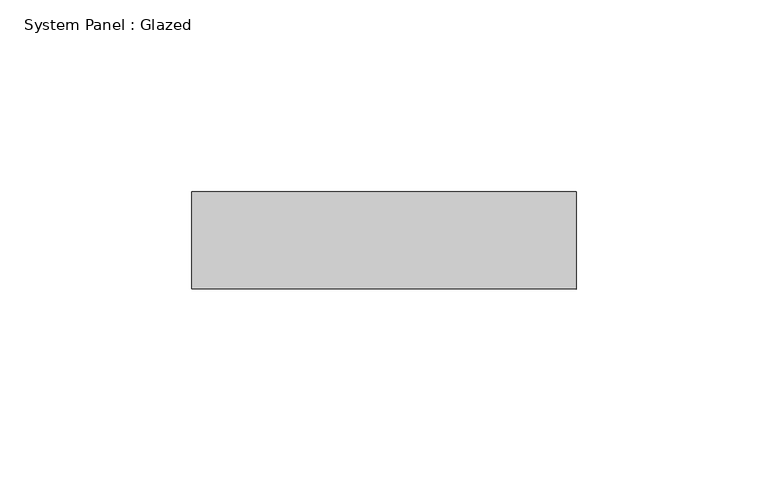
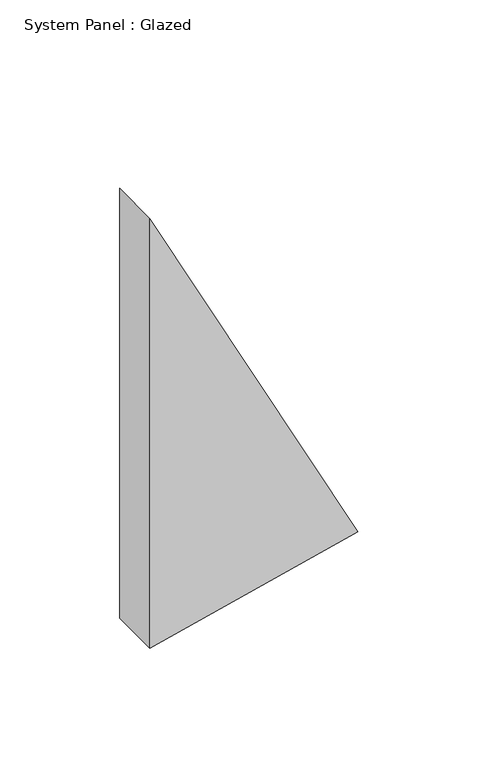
"""IFC4 building model written with IfcOpenShell, lengths in millimetres: plate geometry, System Panel : Glazed."""

from ifc_helpers import new_model, si_unit, frame, origin, place, context, project, spatial, polyline, outline, extrude, source, transform, mapped, element, save


def system_panel_glazed_43588e67(model_context):
    return source(origin(), model_context, "Body", "SweptSolid", [
        extrude(outline(polyline([(0.0, -50.2221274), (24.3460609, 50.2226376), (219.3780759, -50.2226376), (0.0, -50.2221274)])), frame((0.0, -44.45, 0.0), z_axis=(0.0, 1.0, 0.0), x_axis=(0.0, 0.0, 1.0)), (0.0, 0.0, 1.0), 25.4),
    ])


if __name__ == "__main__":
    model = new_model("IFC4")
    model_context = context("Model", 3, world=origin())
    ifc_project = project(units=[si_unit("LENGTHUNIT", "METRE", prefix="MILLI")], contexts=[model_context])
    site = spatial("IfcSite", under=ifc_project)
    building = spatial("IfcBuilding", under=site)
    placement = place(None, origin())
    system_panel_glazed_shape = system_panel_glazed_43588e67(model_context)
    element("IfcPlate", 1, ObjectType="System Panel : Glazed", at=placement, inside=building, context=model_context, shape_type="MappedRepresentation", body=[
        mapped(system_panel_glazed_shape, transform((0.0, 0.0, 0.0), x_axis=(1.0, 0.0, 0.0), y_axis=(0.0, 1.0, 0.0), z_axis=(0.0, 0.0, 1.0))),
    ])
    save(model, "model.ifc")
